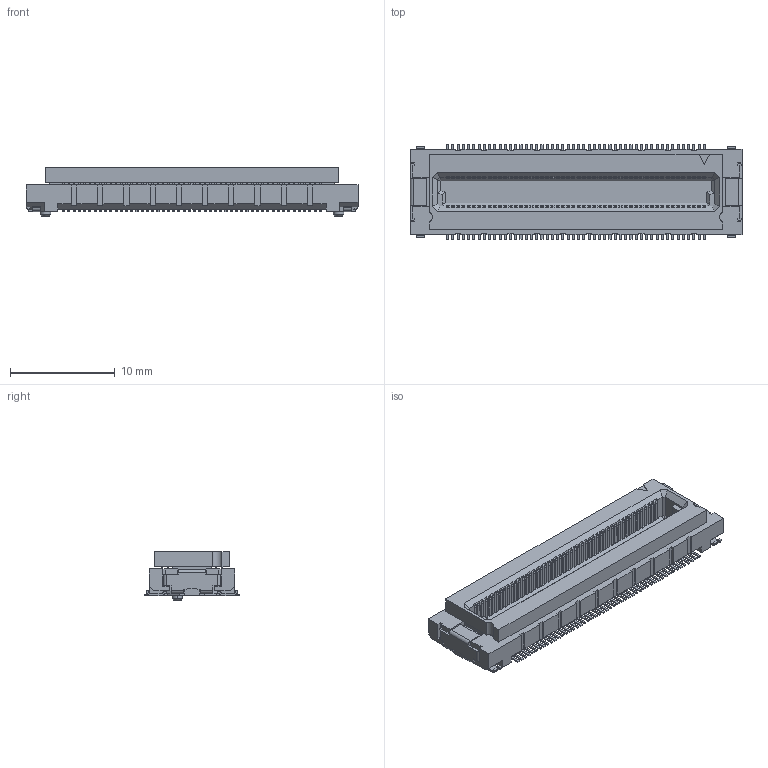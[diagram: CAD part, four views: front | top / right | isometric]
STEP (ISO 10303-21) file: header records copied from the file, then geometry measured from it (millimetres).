
FILE_DESCRIPTION(('Creo Elements/Direct Modeling STEP Export'),'2;1');
FILE_NAME('P3C784_DY03-100SB-BT.stp','2022-02-28T18:53:43',(''),(''),'Creo Elements/Direct Modeling STEP processor for AP214 (Solid Model)','Creo Elements/Direct Modeling 20.4A 18-Oct-2021 (C) Parametric Technology GmbH','');
FILE_SCHEMA(('AUTOMOTIVE_DESIGN { 1 0 10303 214 1 1 1 1 }'));
Products named in the file (2): P3C784_DY03-100SB-BT
Assembly tree (1 placements, depth 2):
  P3C784_DY03-100SB-BT
    P3C784_DY03-100SB-BT
Bounding box: 31.7 x 9 x 4.65 mm (x, y, z)
Volume: 665.3 mm3; surface area: 1516.5 mm2
Topology: 1 solids, 1 shells, 4271 faces, 11967 edges, 7902 vertices
Faces by surface type: plane 3818, cylinder 449, cone 4
Entity records: 134002 total; most frequent: ORIENTED_EDGE 23934, CARTESIAN_POINT 23692, DIRECTION 20863, EDGE_CURVE 11967, VECTOR 10717, LINE 10717, VERTEX_POINT 7902, AXIS2_PLACEMENT_3D 5073
